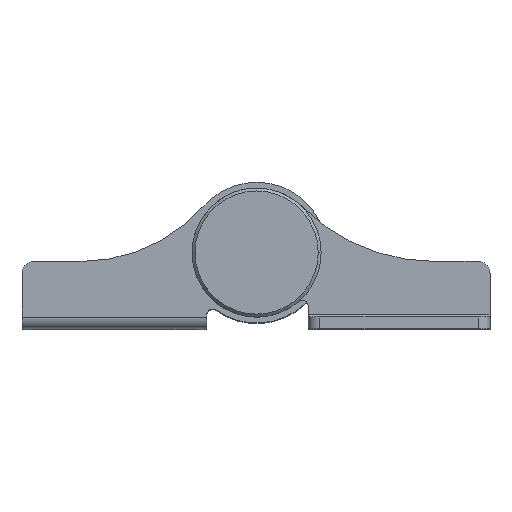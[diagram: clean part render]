
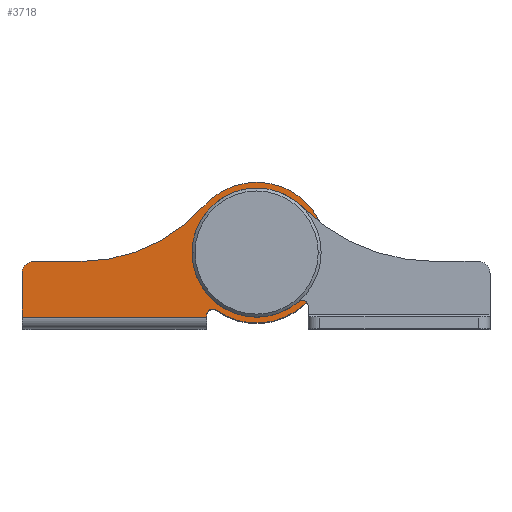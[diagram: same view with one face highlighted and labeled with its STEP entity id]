
A CAD part, top view. The second image highlights one B-rep face of the part: STEP entity #3718.
In plain terms, the highlighted planar face has unit normal (0, 0, 1).
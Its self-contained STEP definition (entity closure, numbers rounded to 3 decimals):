
#3 = CIRCLE ( 'NONE', #3633, 12. ) ;
#51 = DIRECTION ( 'NONE',  ( 1., 0., 0. ) ) ;
#144 = CARTESIAN_POINT ( 'NONE',  ( 0., 0., 60. ) ) ;
#177 = ORIENTED_EDGE ( 'NONE', *, *, #2435, .F. ) ;
#218 = VERTEX_POINT ( 'NONE', #489 ) ;
#395 = CARTESIAN_POINT ( 'NONE',  ( -38., -1.5, 60. ) ) ;
#489 = CARTESIAN_POINT ( 'NONE',  ( -29.943, -1.5, 60. ) ) ;
#553 = CIRCLE ( 'NONE', #4504, 4. ) ;
#637 = VECTOR ( 'NONE', #1314, 1000. ) ;
#646 = DIRECTION ( 'NONE',  ( -1., 0., 0. ) ) ;
#658 = EDGE_LOOP ( 'NONE', ( #2153, #177 ) ) ;
#771 = AXIS2_PLACEMENT_3D ( 'NONE', #3821, #3746, #3425 ) ;
#857 = CARTESIAN_POINT ( 'NONE',  ( 4., 0., 60. ) ) ;
#898 = DIRECTION ( 'NONE',  ( 0., 0., -1. ) ) ;
#933 = VERTEX_POINT ( 'NONE', #2502 ) ;
#968 = CARTESIAN_POINT ( 'NONE',  ( -40., -1.5, 60. ) ) ;
#978 = EDGE_LOOP ( 'NONE', ( #1888, #1337, #2973, #3538, #4414, #4084, #1732, #1839 ) ) ;
#1079 = VECTOR ( 'NONE', #2161, 1000. ) ;
#1180 = CARTESIAN_POINT ( 'NONE',  ( -7.5, -10.618, 60. ) ) ;
#1313 = AXIS2_PLACEMENT_3D ( 'NONE', #4234, #898, #2018 ) ;
#1314 = DIRECTION ( 'NONE',  ( 0., -1., 0. ) ) ;
#1327 = VECTOR ( 'NONE', #4055, 1000. ) ;
#1337 = ORIENTED_EDGE ( 'NONE', *, *, #2101, .T. ) ;
#1412 = CARTESIAN_POINT ( 'NONE',  ( -8.5, -10.618, 60. ) ) ;
#1511 = CARTESIAN_POINT ( 'NONE',  ( -7.5, -11., 60. ) ) ;
#1534 = FACE_BOUND ( 'NONE', #658, .T. ) ;
#1560 = EDGE_CURVE ( 'NONE', #933, #2351, #3, .T. ) ;
#1627 = DIRECTION ( 'NONE',  ( 0., 0., -1. ) ) ;
#1628 = LINE ( 'NONE', #2809, #637 ) ;
#1646 = CARTESIAN_POINT ( 'NONE',  ( -7.5, -10.618, 60. ) ) ;
#1663 = VERTEX_POINT ( 'NONE', #3448 ) ;
#1697 = EDGE_CURVE ( 'NONE', #2351, #218, #1763, .T. ) ;
#1732 = ORIENTED_EDGE ( 'NONE', *, *, #3906, .T. ) ;
#1763 = CIRCLE ( 'NONE', #771, 27.957 ) ;
#1827 = CARTESIAN_POINT ( 'NONE',  ( -8.993, 7.946, 60. ) ) ;
#1839 = ORIENTED_EDGE ( 'NONE', *, *, #3165, .F. ) ;
#1861 = CARTESIAN_POINT ( 'NONE',  ( 0., 0., 60. ) ) ;
#1888 = ORIENTED_EDGE ( 'NONE', *, *, #2609, .T. ) ;
#2018 = DIRECTION ( 'NONE',  ( 1., 0., 0. ) ) ;
#2080 = CARTESIAN_POINT ( 'NONE',  ( -4., 0., 60. ) ) ;
#2101 = EDGE_CURVE ( 'NONE', #1663, #933, #4498, .T. ) ;
#2124 = EDGE_CURVE ( 'NONE', #3110, #3241, #3022, .T. ) ;
#2153 = ORIENTED_EDGE ( 'NONE', *, *, #2345, .F. ) ;
#2161 = DIRECTION ( 'NONE',  ( 0., 1., 0. ) ) ;
#2188 = LINE ( 'NONE', #1412, #1079 ) ;
#2203 = CARTESIAN_POINT ( 'NONE',  ( -8.5, -11., 60. ) ) ;
#2343 = DIRECTION ( 'NONE',  ( 1., 0., 0. ) ) ;
#2345 = EDGE_CURVE ( 'NONE', #4231, #4184, #553, .T. ) ;
#2351 = VERTEX_POINT ( 'NONE', #1827 ) ;
#2420 = CARTESIAN_POINT ( 'NONE',  ( -40., -11., 60. ) ) ;
#2435 = EDGE_CURVE ( 'NONE', #4184, #4231, #3728, .T. ) ;
#2502 = CARTESIAN_POINT ( 'NONE',  ( -6.923, -9.802, 60. ) ) ;
#2513 = CARTESIAN_POINT ( 'NONE',  ( -40., -3.5, 60. ) ) ;
#2515 = DIRECTION ( 'NONE',  ( 0., 0., 1. ) ) ;
#2609 = EDGE_CURVE ( 'NONE', #4740, #1663, #2188, .T. ) ;
#2632 = DIRECTION ( 'NONE',  ( 1., 0., 0. ) ) ;
#2809 = CARTESIAN_POINT ( 'NONE',  ( -40., -1.5, 60. ) ) ;
#2973 = ORIENTED_EDGE ( 'NONE', *, *, #1560, .T. ) ;
#3014 = AXIS2_PLACEMENT_3D ( 'NONE', #144, #3812, #2343 ) ;
#3020 = FACE_OUTER_BOUND ( 'NONE', #978, .T. ) ;
#3022 = CIRCLE ( 'NONE', #1313, 2. ) ;
#3110 = VERTEX_POINT ( 'NONE', #2513 ) ;
#3114 = DIRECTION ( 'NONE',  ( 1., 0., 0. ) ) ;
#3165 = EDGE_CURVE ( 'NONE', #4740, #4595, #3638, .T. ) ;
#3185 = VECTOR ( 'NONE', #646, 1000. ) ;
#3241 = VERTEX_POINT ( 'NONE', #395 ) ;
#3242 = DIRECTION ( 'NONE',  ( 1., 0., 0. ) ) ;
#3425 = DIRECTION ( 'NONE',  ( 1., 0., 0. ) ) ;
#3448 = CARTESIAN_POINT ( 'NONE',  ( -8.5, -10.618, 60. ) ) ;
#3538 = ORIENTED_EDGE ( 'NONE', *, *, #1697, .T. ) ;
#3633 = AXIS2_PLACEMENT_3D ( 'NONE', #1861, #2515, #3242 ) ;
#3638 = LINE ( 'NONE', #1511, #1327 ) ;
#3718 = ADVANCED_FACE ( 'NONE', ( #3020, #1534 ), #4507, .F. ) ;
#3728 = CIRCLE ( 'NONE', #3014, 4. ) ;
#3746 = DIRECTION ( 'NONE',  ( 0., 0., -1. ) ) ;
#3812 = DIRECTION ( 'NONE',  ( 0., 0., 1. ) ) ;
#3821 = CARTESIAN_POINT ( 'NONE',  ( -29.943, 26.457, 60. ) ) ;
#3906 = EDGE_CURVE ( 'NONE', #3110, #4595, #1628, .T. ) ;
#3937 = EDGE_CURVE ( 'NONE', #218, #3241, #4299, .T. ) ;
#4025 = CARTESIAN_POINT ( 'NONE',  ( 0., 0., 60. ) ) ;
#4055 = DIRECTION ( 'NONE',  ( -1., 0., 0. ) ) ;
#4084 = ORIENTED_EDGE ( 'NONE', *, *, #2124, .F. ) ;
#4184 = VERTEX_POINT ( 'NONE', #857 ) ;
#4217 = DIRECTION ( 'NONE',  ( 0., 0., -1. ) ) ;
#4231 = VERTEX_POINT ( 'NONE', #2080 ) ;
#4234 = CARTESIAN_POINT ( 'NONE',  ( -38., -3.5, 60. ) ) ;
#4299 = LINE ( 'NONE', #968, #3185 ) ;
#4336 = AXIS2_PLACEMENT_3D ( 'NONE', #1180, #4217, #2632 ) ;
#4414 = ORIENTED_EDGE ( 'NONE', *, *, #3937, .T. ) ;
#4478 = DIRECTION ( 'NONE',  ( 0., 0., 1. ) ) ;
#4498 = CIRCLE ( 'NONE', #4578, 1. ) ;
#4504 = AXIS2_PLACEMENT_3D ( 'NONE', #4025, #4478, #51 ) ;
#4507 = PLANE ( 'NONE',  #4336 ) ;
#4578 = AXIS2_PLACEMENT_3D ( 'NONE', #1646, #1627, #3114 ) ;
#4595 = VERTEX_POINT ( 'NONE', #2420 ) ;
#4740 = VERTEX_POINT ( 'NONE', #2203 ) ;
